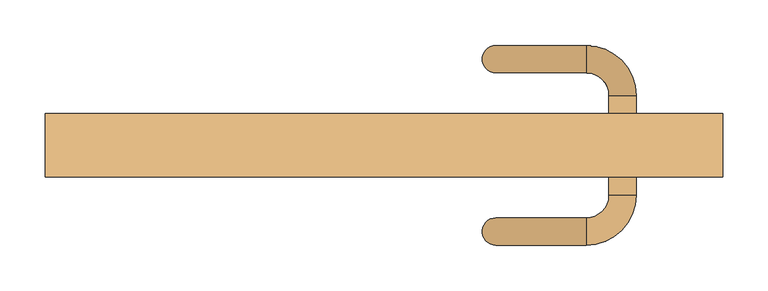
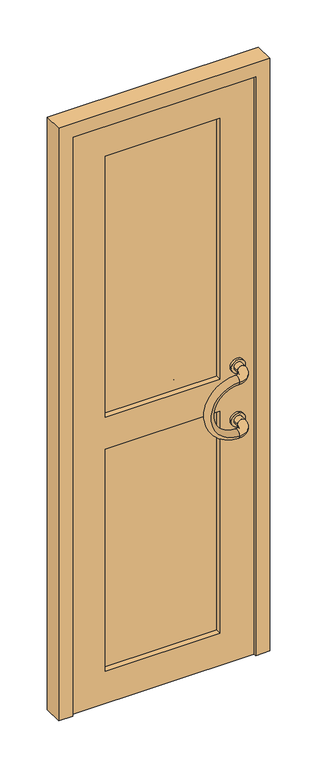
"""IFC4 building model written with IfcOpenShell, lengths in millimetres: door geometry, Simple vitrée : Simple vitrée."""

from ifc_helpers import new_model, si_unit, point, frame, frame_2d, origin, place, context, project, spatial, polyline, circle_curve, ellipse_curve, trimmed, segment, composite_curve, outline, extrude, source, transform, mapped, element, save
from ifc_brep_helpers import plane_surface, revolved_surface, advanced_brep


def door_c604b2eb(model_context):
    return source(origin(), model_context, "Body", "SolidModel", [
        extrude(outline(composite_curve([segment(trimmed(circle_curve(frame_2d((1100.0, 262.5)), 25.0), [point((1100.0, 287.5))], [point((1100.0, 237.5))], False, "CARTESIAN"), True, "CONTINUOUS"), segment(trimmed(circle_curve(frame_2d((1100.0, 262.5)), 25.0), [point((1100.0, 237.5))], [point((1100.0, 287.5))], False, "CARTESIAN"), True, "CONTINUOUS")], self_intersect=False), holes=[composite_curve([segment(trimmed(circle_curve(frame_2d((1100.0, 262.5)), 15.0), [point((1100.0, 277.5))], [point((1100.0, 247.5))], True, "CARTESIAN"), True, "CONTINUOUS"), segment(trimmed(circle_curve(frame_2d((1100.0, 262.5)), 15.0), [point((1100.0, 247.5))], [point((1100.0, 277.5))], True, "CARTESIAN"), True, "CONTINUOUS")], self_intersect=False)]), frame((0.0, 35.0, 0.0), z_axis=(0.0, 1.0, 0.0), x_axis=(0.0, 0.0, 1.0)), (0.0, 0.0, 1.0), 8.0),
        extrude(outline(composite_curve([segment(trimmed(circle_curve(frame_2d((900.0, 262.5)), 25.0), [point((900.0, 287.5))], [point((900.0, 237.5))], False, "CARTESIAN"), True, "CONTINUOUS"), segment(trimmed(circle_curve(frame_2d((900.0, 262.5)), 25.0), [point((900.0, 237.5))], [point((900.0, 287.5))], False, "CARTESIAN"), True, "CONTINUOUS")], self_intersect=False), holes=[composite_curve([segment(trimmed(circle_curve(frame_2d((900.0, 262.5)), 15.0), [point((900.0, 277.5))], [point((900.0, 247.5))], True, "CARTESIAN"), True, "CONTINUOUS"), segment(trimmed(circle_curve(frame_2d((900.0, 262.5)), 15.0), [point((900.0, 247.5))], [point((900.0, 277.5))], True, "CARTESIAN"), True, "CONTINUOUS")], self_intersect=False)]), frame((0.0, 35.0, 0.0), z_axis=(0.0, 1.0, 0.0), x_axis=(0.0, 0.0, 1.0)), (0.0, 0.0, 1.0), 8.0),
        extrude(outline(composite_curve([segment(trimmed(circle_curve(frame_2d((1100.0, 262.5)), 25.0), [point((1100.0, 287.5))], [point((1100.0, 237.5))], False, "CARTESIAN"), True, "CONTINUOUS"), segment(trimmed(circle_curve(frame_2d((1100.0, 262.5)), 25.0), [point((1100.0, 237.5))], [point((1100.0, 287.5))], False, "CARTESIAN"), True, "CONTINUOUS")], self_intersect=False), holes=[composite_curve([segment(trimmed(circle_curve(frame_2d((1100.0, 262.5)), 15.0), [point((1100.0, 277.5))], [point((1100.0, 247.5))], True, "CARTESIAN"), True, "CONTINUOUS"), segment(trimmed(circle_curve(frame_2d((1100.0, 262.5)), 15.0), [point((1100.0, 247.5))], [point((1100.0, 277.5))], True, "CARTESIAN"), True, "CONTINUOUS")], self_intersect=False)]), frame((0.0, -23.0, 0.0), z_axis=(0.0, 1.0, 0.0), x_axis=(0.0, 0.0, 1.0)), (0.0, 0.0, 1.0), 8.0),
        extrude(outline(composite_curve([segment(trimmed(circle_curve(frame_2d((900.0, 262.5)), 25.0), [point((900.0, 287.5))], [point((900.0, 237.5))], False, "CARTESIAN"), True, "CONTINUOUS"), segment(trimmed(circle_curve(frame_2d((900.0, 262.5)), 25.0), [point((900.0, 237.5))], [point((900.0, 287.5))], False, "CARTESIAN"), True, "CONTINUOUS")], self_intersect=False), holes=[composite_curve([segment(trimmed(circle_curve(frame_2d((900.0, 262.5)), 15.0), [point((900.0, 277.5))], [point((900.0, 247.5))], True, "CARTESIAN"), True, "CONTINUOUS"), segment(trimmed(circle_curve(frame_2d((900.0, 262.5)), 15.0), [point((900.0, 247.5))], [point((900.0, 277.5))], True, "CARTESIAN"), True, "CONTINUOUS")], self_intersect=False)]), frame((0.0, -23.0, 0.0), z_axis=(0.0, 1.0, 0.0), x_axis=(0.0, 0.0, 1.0)), (0.0, 0.0, 1.0), 8.0),
        advanced_brep(
        [(222.5, 120.0, 1100.0), (222.5, 90.0, 1100.0), (222.5, 120.0, 900.0), (222.5, 90.0, 900.0)],
        [
            (0, 1, circle_curve(frame((222.5, 105.0, 1100.0), z_axis=(1.0, 0.0, 0.0), x_axis=(0.0, -1.0, 0.0)), 15.0)),
            (1, 0, circle_curve(frame((222.5, 105.0, 1100.0), z_axis=(1.0, 0.0, 0.0), x_axis=(0.0, -1.0, 0.0)), 15.0)),
            (2, 3, circle_curve(frame((222.5, 105.0, 900.0), z_axis=(1.0, 0.0, 0.0), x_axis=(0.0, -1.0, 0.0)), 15.0)),
            (3, 2, circle_curve(frame((222.5, 105.0, 900.0), z_axis=(1.0, 0.0, 0.0), x_axis=(0.0, -1.0, 0.0)), 15.0)),
            (2, 0, circle_curve(frame((222.5, 120.0, 1000.0), z_axis=(0.0, 1.0, 0.0), x_axis=(0.0, 0.0, 1.0)), 100.0)),
            (1, 3, circle_curve(frame((222.5, 90.0, 1000.0), z_axis=(0.0, -1.0, 0.0), x_axis=(0.0, 0.0, 1.0)), 100.0)),
        ],
        [
            plane_surface(frame((222.5, 105.0, 1000.0), z_axis=(1.0, 0.0, 0.0), x_axis=(0.0, 0.0, 1.0))),
            plane_surface(frame((222.5, 105.0, 1000.0), z_axis=(1.0, 0.0, 0.0), x_axis=(0.0, 0.0, -1.0))),
            revolved_surface(trimmed(ellipse_curve(frame((222.5, 105.0, 1100.0), z_axis=(-1.0, 0.0, 0.0), x_axis=(0.0, -1.0, 0.0)), 15.0, 15.0), [point((222.5, 120.0, 1100.0))], [point((222.5, 90.0, 1100.0))], True, "CARTESIAN"), (222.5, 105.0, 1000.0), (0.0, 1.0, 0.0)),
            revolved_surface(trimmed(ellipse_curve(frame((222.5, 105.0, 1100.0), z_axis=(-1.0, 0.0, 0.0), x_axis=(0.0, -1.0, 0.0)), 15.0, 15.0), [point((222.5, 90.0, 1100.0))], [point((222.5, 120.0, 1100.0))], True, "CARTESIAN"), (222.5, 105.0, 1000.0), (0.0, 1.0, 0.0)),
        ],
        [
            (0, [[1, 2]]),
            (1, [[3, 4]]),
            (2, [[-3, 5, -2, 6]]),
            (3, [[-4, -6, -1, -5]]),
        ],
    ),
        advanced_brep(
        [(247.5, 65.0, 1100.0), (277.5, 65.0, 1100.0), (222.5, 90.0, 1100.0), (222.5, 120.0, 1100.0)],
        [
            (0, 1, circle_curve(frame((262.5, 65.0, 1100.0), z_axis=(0.0, -1.0, 0.0), x_axis=(1.0, 0.0, 0.0)), 15.0)),
            (1, 0, circle_curve(frame((262.5, 65.0, 1100.0), z_axis=(0.0, -1.0, 0.0), x_axis=(1.0, 0.0, 0.0)), 15.0)),
            (2, 3, circle_curve(frame((222.5, 105.0, 1100.0), z_axis=(-1.0, 0.0, 0.0), x_axis=(0.0, 1.0, 0.0)), 15.0)),
            (3, 2, circle_curve(frame((222.5, 105.0, 1100.0), z_axis=(-1.0, 0.0, 0.0), x_axis=(0.0, 1.0, 0.0)), 15.0)),
            (2, 0, circle_curve(frame((222.5, 65.0, 1100.0), z_axis=(0.0, 0.0, -1.0), x_axis=(1.0, 0.0, 0.0)), 25.0)),
            (1, 3, circle_curve(frame((222.5, 65.0, 1100.0), z_axis=(0.0, 0.0, 1.0), x_axis=(1.0, 0.0, 0.0)), 55.0)),
        ],
        [
            plane_surface(frame((222.5, 65.0, 1100.0), z_axis=(0.0, -1.0, 0.0), x_axis=(1.0, 0.0, 0.0))),
            plane_surface(frame((222.5, 65.0, 1100.0), z_axis=(-1.0, 0.0, 0.0), x_axis=(0.0, 1.0, 0.0))),
            revolved_surface(trimmed(ellipse_curve(frame((262.5, 65.0, 1100.0), z_axis=(0.0, 1.0, 0.0), x_axis=(1.0, 0.0, 0.0)), 15.0, 15.0), [point((247.5, 65.0, 1100.0))], [point((277.5, 65.0, 1100.0))], True, "CARTESIAN"), (222.5, 65.0, 1100.0), (0.0, 0.0, -1.0)),
            revolved_surface(trimmed(ellipse_curve(frame((262.5, 65.0, 1100.0), z_axis=(0.0, 1.0, 0.0), x_axis=(1.0, 0.0, 0.0)), 15.0, 15.0), [point((277.5, 65.0, 1100.0))], [point((247.5, 65.0, 1100.0))], True, "CARTESIAN"), (222.5, 65.0, 1100.0), (0.0, 0.0, -1.0)),
        ],
        [
            (0, [[1, 2]]),
            (1, [[3, 4]]),
            (2, [[-3, 5, -2, 6]]),
            (3, [[-4, -6, -1, -5]]),
        ],
    ),
        advanced_brep(
        [(247.5, 65.0, 900.0), (277.5, 65.0, 900.0), (222.5, 90.0, 900.0), (222.5, 120.0, 900.0)],
        [
            (0, 1, circle_curve(frame((262.5, 65.0, 900.0), z_axis=(0.0, -1.0, 0.0), x_axis=(1.0, 0.0, 0.0)), 15.0)),
            (1, 0, circle_curve(frame((262.5, 65.0, 900.0), z_axis=(0.0, -1.0, 0.0), x_axis=(1.0, 0.0, 0.0)), 15.0)),
            (2, 3, circle_curve(frame((222.5, 105.0, 900.0), z_axis=(-1.0, 0.0, 0.0), x_axis=(0.0, 1.0, 0.0)), 15.0)),
            (3, 2, circle_curve(frame((222.5, 105.0, 900.0), z_axis=(-1.0, 0.0, 0.0), x_axis=(0.0, 1.0, 0.0)), 15.0)),
            (2, 0, circle_curve(frame((222.5, 65.0, 900.0), z_axis=(0.0, 0.0, -1.0), x_axis=(1.0, 0.0, 0.0)), 25.0)),
            (1, 3, circle_curve(frame((222.5, 65.0, 900.0), z_axis=(0.0, 0.0, 1.0), x_axis=(1.0, 0.0, 0.0)), 55.0)),
        ],
        [
            plane_surface(frame((222.5, 65.0, 1100.0), z_axis=(0.0, -1.0, 0.0), x_axis=(1.0, 0.0, 0.0))),
            plane_surface(frame((222.5, 65.0, 1100.0), z_axis=(-1.0, 0.0, 0.0), x_axis=(0.0, 1.0, 0.0))),
            revolved_surface(trimmed(ellipse_curve(frame((262.5, 65.0, 900.0), z_axis=(0.0, 1.0, 0.0), x_axis=(1.0, 0.0, 0.0)), 15.0, 15.0), [point((247.5, 65.0, 900.0))], [point((277.5, 65.0, 900.0))], True, "CARTESIAN"), (222.5, 65.0, 1100.0), (0.0, 0.0, -1.0)),
            revolved_surface(trimmed(ellipse_curve(frame((262.5, 65.0, 900.0), z_axis=(0.0, 1.0, 0.0), x_axis=(1.0, 0.0, 0.0)), 15.0, 15.0), [point((277.5, 65.0, 900.0))], [point((247.5, 65.0, 900.0))], True, "CARTESIAN"), (222.5, 65.0, 1100.0), (0.0, 0.0, -1.0)),
        ],
        [
            (0, [[1, 2]]),
            (1, [[3, 4]]),
            (2, [[-3, 5, -2, 6]]),
            (3, [[-4, -6, -1, -5]]),
        ],
    ),
        extrude(outline(composite_curve([segment(trimmed(circle_curve(frame_2d((1100.0, 262.5)), 15.0), [point((1100.0, 277.5))], [point((1100.0, 247.5))], False, "CARTESIAN"), True, "CONTINUOUS"), segment(trimmed(circle_curve(frame_2d((1100.0, 262.5)), 15.0), [point((1100.0, 247.5))], [point((1100.0, 277.5))], False, "CARTESIAN"), True, "CONTINUOUS")], self_intersect=False)), frame((0.0, 35.0, 0.0), z_axis=(0.0, 1.0, 0.0), x_axis=(0.0, 0.0, 1.0)), (0.0, 0.0, 1.0), 30.0),
        extrude(outline(composite_curve([segment(trimmed(circle_curve(frame_2d((900.0, 262.5)), 15.0), [point((900.0, 277.5))], [point((900.0, 247.5))], False, "CARTESIAN"), True, "CONTINUOUS"), segment(trimmed(circle_curve(frame_2d((900.0, 262.5)), 15.0), [point((900.0, 247.5))], [point((900.0, 277.5))], False, "CARTESIAN"), True, "CONTINUOUS")], self_intersect=False)), frame((0.0, 35.0, 0.0), z_axis=(0.0, 1.0, 0.0), x_axis=(0.0, 0.0, 1.0)), (0.0, 0.0, 1.0), 30.0),
        advanced_brep(
        [(222.5, -70.0, 1100.0), (222.5, -100.0, 1100.0), (222.5, -70.0, 900.0), (222.5, -100.0, 900.0)],
        [
            (0, 1, circle_curve(frame((222.5, -85.0, 1100.0), z_axis=(1.0, 0.0, 0.0), x_axis=(0.0, -1.0, 0.0)), 15.0)),
            (1, 0, circle_curve(frame((222.5, -85.0, 1100.0), z_axis=(1.0, 0.0, 0.0), x_axis=(0.0, -1.0, 0.0)), 15.0)),
            (2, 3, circle_curve(frame((222.5, -85.0, 900.0), z_axis=(1.0, 0.0, 0.0), x_axis=(0.0, -1.0, 0.0)), 15.0)),
            (3, 2, circle_curve(frame((222.5, -85.0, 900.0), z_axis=(1.0, 0.0, 0.0), x_axis=(0.0, -1.0, 0.0)), 15.0)),
            (2, 0, circle_curve(frame((222.5, -70.0, 1000.0), z_axis=(0.0, 1.0, 0.0), x_axis=(0.0, 0.0, 1.0)), 100.0)),
            (1, 3, circle_curve(frame((222.5, -100.0, 1000.0), z_axis=(0.0, -1.0, 0.0), x_axis=(0.0, 0.0, 1.0)), 100.0)),
        ],
        [
            plane_surface(frame((222.5, -100.0, 1000.0), z_axis=(1.0, 0.0, 0.0), x_axis=(0.0, 0.0, 1.0))),
            plane_surface(frame((222.5, -100.0, 1000.0), z_axis=(1.0, 0.0, 0.0), x_axis=(0.0, 0.0, -1.0))),
            revolved_surface(trimmed(ellipse_curve(frame((222.5, -85.0, 1100.0), z_axis=(-1.0, 0.0, 0.0), x_axis=(0.0, -1.0, 0.0)), 15.0, 15.0), [point((222.5, -70.0, 1100.0))], [point((222.5, -100.0, 1100.0))], True, "CARTESIAN"), (222.5, -100.0, 1000.0), (0.0, 1.0, 0.0)),
            revolved_surface(trimmed(ellipse_curve(frame((222.5, -85.0, 1100.0), z_axis=(-1.0, 0.0, 0.0), x_axis=(0.0, -1.0, 0.0)), 15.0, 15.0), [point((222.5, -100.0, 1100.0))], [point((222.5, -70.0, 1100.0))], True, "CARTESIAN"), (222.5, -100.0, 1000.0), (0.0, 1.0, 0.0)),
        ],
        [
            (0, [[1, 2]]),
            (1, [[3, 4]]),
            (2, [[-3, 5, -2, 6]]),
            (3, [[-4, -6, -1, -5]]),
        ],
    ),
        advanced_brep(
        [(277.5, -45.0, 1100.0), (247.5, -45.0, 1100.0), (222.5, -100.0, 1100.0), (222.5, -70.0, 1100.0)],
        [
            (0, 1, circle_curve(frame((262.5, -45.0, 1100.0), z_axis=(0.0, 1.0, 0.0), x_axis=(-1.0, 0.0, 0.0)), 15.0)),
            (1, 0, circle_curve(frame((262.5, -45.0, 1100.0), z_axis=(0.0, 1.0, 0.0), x_axis=(-1.0, 0.0, 0.0)), 15.0)),
            (2, 3, circle_curve(frame((222.5, -85.0, 1100.0), z_axis=(-1.0, 0.0, 0.0), x_axis=(0.0, 1.0, 0.0)), 15.0)),
            (3, 2, circle_curve(frame((222.5, -85.0, 1100.0), z_axis=(-1.0, 0.0, 0.0), x_axis=(0.0, 1.0, 0.0)), 15.0)),
            (2, 0, circle_curve(frame((222.5, -45.0, 1100.0), z_axis=(0.0, 0.0, 1.0), x_axis=(1.0, 0.0, 0.0)), 55.0)),
            (1, 3, circle_curve(frame((222.5, -45.0, 1100.0), z_axis=(0.0, 0.0, -1.0), x_axis=(1.0, 0.0, 0.0)), 25.0)),
        ],
        [
            plane_surface(frame((222.5, -45.0, 1100.0), z_axis=(0.0, 1.0, 0.0), x_axis=(1.0, 0.0, 0.0))),
            plane_surface(frame((222.5, -45.0, 1100.0), z_axis=(-1.0, 0.0, 0.0), x_axis=(0.0, -1.0, 0.0))),
            revolved_surface(trimmed(ellipse_curve(frame((262.5, -45.0, 1100.0), z_axis=(0.0, -1.0, 0.0), x_axis=(-1.0, 0.0, 0.0)), 15.0, 15.0), [point((277.5, -45.0, 1100.0))], [point((247.5, -45.0, 1100.0))], True, "CARTESIAN"), (222.5, -45.0, 1100.0), (0.0, 0.0, 1.0)),
            revolved_surface(trimmed(ellipse_curve(frame((262.5, -45.0, 1100.0), z_axis=(0.0, -1.0, 0.0), x_axis=(-1.0, 0.0, 0.0)), 15.0, 15.0), [point((247.5, -45.0, 1100.0))], [point((277.5, -45.0, 1100.0))], True, "CARTESIAN"), (222.5, -45.0, 1100.0), (0.0, 0.0, 1.0)),
        ],
        [
            (0, [[1, 2]]),
            (1, [[3, 4]]),
            (2, [[-3, 5, -2, 6]]),
            (3, [[-4, -6, -1, -5]]),
        ],
    ),
        advanced_brep(
        [(277.5, -45.0, 900.0), (247.5, -45.0, 900.0), (222.5, -100.0, 900.0), (222.5, -70.0, 900.0)],
        [
            (0, 1, circle_curve(frame((262.5, -45.0, 900.0), z_axis=(0.0, 1.0, 0.0), x_axis=(-1.0, 0.0, 0.0)), 15.0)),
            (1, 0, circle_curve(frame((262.5, -45.0, 900.0), z_axis=(0.0, 1.0, 0.0), x_axis=(-1.0, 0.0, 0.0)), 15.0)),
            (2, 3, circle_curve(frame((222.5, -85.0, 900.0), z_axis=(-1.0, 0.0, 0.0), x_axis=(0.0, 1.0, 0.0)), 15.0)),
            (3, 2, circle_curve(frame((222.5, -85.0, 900.0), z_axis=(-1.0, 0.0, 0.0), x_axis=(0.0, 1.0, 0.0)), 15.0)),
            (2, 0, circle_curve(frame((222.5, -45.0, 900.0), z_axis=(0.0, 0.0, 1.0), x_axis=(1.0, 0.0, 0.0)), 55.0)),
            (1, 3, circle_curve(frame((222.5, -45.0, 900.0), z_axis=(0.0, 0.0, -1.0), x_axis=(1.0, 0.0, 0.0)), 25.0)),
        ],
        [
            plane_surface(frame((222.5, -45.0, 1100.0), z_axis=(0.0, 1.0, 0.0), x_axis=(1.0, 0.0, 0.0))),
            plane_surface(frame((222.5, -45.0, 1100.0), z_axis=(-1.0, 0.0, 0.0), x_axis=(0.0, -1.0, 0.0))),
            revolved_surface(trimmed(ellipse_curve(frame((262.5, -45.0, 900.0), z_axis=(0.0, -1.0, 0.0), x_axis=(-1.0, 0.0, 0.0)), 15.0, 15.0), [point((277.5, -45.0, 900.0))], [point((247.5, -45.0, 900.0))], True, "CARTESIAN"), (222.5, -45.0, 1100.0), (0.0, 0.0, 1.0)),
            revolved_surface(trimmed(ellipse_curve(frame((262.5, -45.0, 900.0), z_axis=(0.0, -1.0, 0.0), x_axis=(-1.0, 0.0, 0.0)), 15.0, 15.0), [point((247.5, -45.0, 900.0))], [point((277.5, -45.0, 900.0))], True, "CARTESIAN"), (222.5, -45.0, 1100.0), (0.0, 0.0, 1.0)),
        ],
        [
            (0, [[1, 2]]),
            (1, [[3, 4]]),
            (2, [[-3, 5, -2, 6]]),
            (3, [[-4, -6, -1, -5]]),
        ],
    ),
        extrude(outline(composite_curve([segment(trimmed(circle_curve(frame_2d((1100.0, 262.5)), 15.0), [point((1100.0, 277.5))], [point((1100.0, 247.5))], False, "CARTESIAN"), True, "CONTINUOUS"), segment(trimmed(circle_curve(frame_2d((1100.0, 262.5)), 15.0), [point((1100.0, 247.5))], [point((1100.0, 277.5))], False, "CARTESIAN"), True, "CONTINUOUS")], self_intersect=False)), frame((0.0, -45.0, 0.0), z_axis=(0.0, 1.0, 0.0), x_axis=(0.0, 0.0, 1.0)), (0.0, 0.0, 1.0), 30.0),
        extrude(outline(composite_curve([segment(trimmed(circle_curve(frame_2d((900.0, 262.5)), 15.0), [point((900.0, 277.5))], [point((900.0, 247.5))], False, "CARTESIAN"), True, "CONTINUOUS"), segment(trimmed(circle_curve(frame_2d((900.0, 262.5)), 15.0), [point((900.0, 247.5))], [point((900.0, 277.5))], False, "CARTESIAN"), True, "CONTINUOUS")], self_intersect=False)), frame((0.0, -45.0, 0.0), z_axis=(0.0, 1.0, 0.0), x_axis=(0.0, 0.0, 1.0)), (0.0, 0.0, 1.0), 30.0),
        extrude(outline(polyline([(0.0, -372.5), (0.0, -322.5), (2160.5020405, -322.5), (2160.5020405, 322.5), (0.0, 322.5), (0.0, 372.5), (2210.5020405, 372.5), (2210.5020405, -372.5), (0.0, -372.5)])), frame((0.0, -25.0, 0.0), z_axis=(0.0, 1.0, 0.0), x_axis=(0.0, 0.0, 1.0)), (0.0, 0.0, 1.0), 70.0),
        extrude(outline(polyline([(202.5, 5.0), (-202.5, 5.0), (-202.5, 15.0), (202.5, 15.0), (202.5, 5.0)])), frame((0.0, 0.0, 120.0), z_axis=(0.0, 0.0, 1.0), x_axis=(1.0, 0.0, 0.0)), (0.0, 0.0, 1.0), 1920.5020405),
        extrude(outline(polyline([(2160.5020405, 322.5), (2160.5020405, -322.5), (0.0, -322.5), (0.0, 322.5), (2160.5020405, 322.5)]), holes=[polyline([(2040.5020405, 202.5), (1067.5687603, 202.5), (1067.5687603, -202.5), (2040.5020405, -202.5), (2040.5020405, 202.5)]), polyline([(947.5687603, -202.5), (947.5687603, 202.5), (120.0, 202.5), (120.0, -202.5), (947.5687603, -202.5)])]), frame((0.0, -15.0, 0.0), z_axis=(0.0, 1.0, 0.0), x_axis=(0.0, 0.0, 1.0)), (0.0, 0.0, 1.0), 50.0),
    ])


if __name__ == "__main__":
    model = new_model("IFC4")
    model_context = context("Model", 3, world=origin())
    ifc_project = project(units=[si_unit("LENGTHUNIT", "METRE", prefix="MILLI")], contexts=[model_context])
    site = spatial("IfcSite", under=ifc_project)
    building = spatial("IfcBuilding", under=site)
    placement = place(None, origin())
    door_shape = door_c604b2eb(model_context)
    element("IfcDoor", 1, ObjectType="Simple vitrée : Simple vitrée", at=placement, inside=building, context=model_context, shape_type="MappedRepresentation", body=[
        mapped(door_shape, transform((0.0, 0.0, 0.0), x_axis=(1.0, 0.0, 0.0), y_axis=(0.0, 1.0, 0.0), z_axis=(0.0, 0.0, 1.0))),
    ])
    save(model, "model.ifc")
